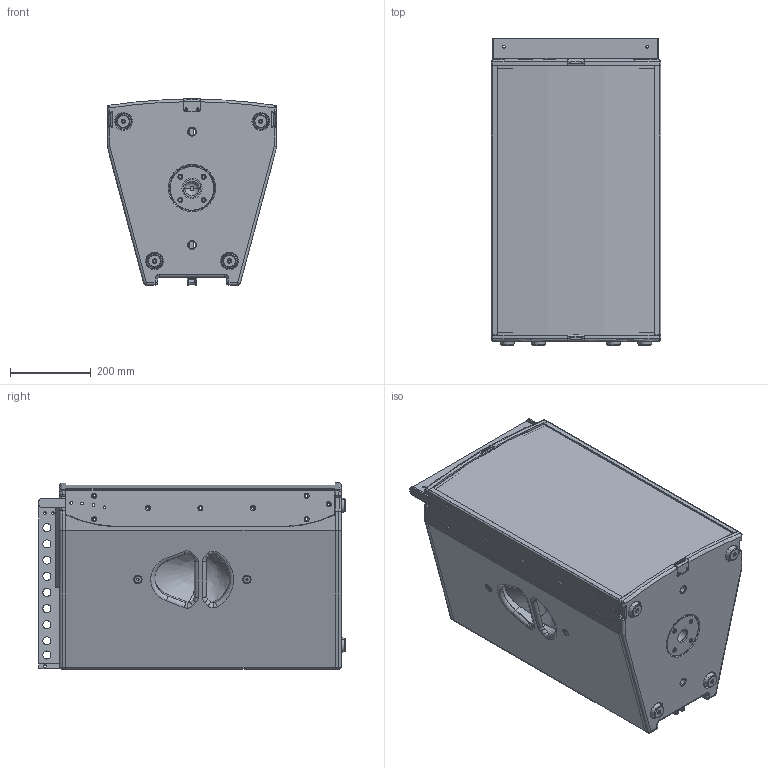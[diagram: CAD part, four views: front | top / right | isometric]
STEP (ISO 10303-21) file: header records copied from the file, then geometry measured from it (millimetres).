
FILE_DESCRIPTION (( 'STEP AP203' ), '1' );
FILE_NAME ('SEEBURG_K24_Cradle.STEP', '2014-04-04T07:55:58', ( 'Michael Anter' ), ( 'SEEBURG acoustic line GmbH' ), 'SwSTEP 2.0', 'SolidWorks 2009', '' );
FILE_SCHEMA (( 'CONFIG_CONTROL_DESIGN' ));
Length unit declared in the file: millimetre
Products named in the file (23): SEEBURG_K24_Cradle; Deckel(K24); Boden(K24); rechteSeitenwand(v); rechteSeitenwand(h); linkeSeitenwand(v); linkeSeitenwand(h); Rückwand(K24); RahmenK24(oben&unten); Gitterleiste(rechts); Gitterleiste(links); RückwandLeiste(K24); Griffaufdopplung_gedreht; Schiffchen; Befestigungsöse; Griffschale_oval; Craddle_K24_modifiziert; Schaum; Aufnahmebuchse_6mm; abs_fuss; ABS-Fuﾟ; 35mm_flanschhülse_110mm; AnschlussfeldEinfach
Assembly tree (33 placements, depth 3):
  SEEBURG_K24_Cradle
    rechteSeitenwand(h)
    Craddle_K24_modifiziert
    Griffschale_oval  x2
    linkeSeitenwand(v)
    Schaum
    Schiffchen  x2
    35mm_flanschhülse_110mm
    linkeSeitenwand(h)
    Aufnahmebuchse_6mm  x4
    AnschlussfeldEinfach
    Rückwand(K24)
    Griffaufdopplung_gedreht
    Befestigungsöse  x2
    abs_fuss  x4
      ABS-Fuﾟ
    RückwandLeiste(K24)  x2
    RahmenK24(oben&unten)  x2
    Deckel(K24)
    Boden(K24)
    Gitterleiste(links)
    rechteSeitenwand(v)
    Gitterleiste(rechts)
Bounding box: 420 x 758.5 x 461.84 mm (x, y, z)
Volume: 16408012.7 mm3; surface area: 3719674.8 mm2
Topology: 34 solids, 34 shells, 1453 faces, 3721 edges, 2344 vertices
Faces by surface type: cylinder 564, plane 449, cone 334, torus 70, bspline 28, sphere 8
Entity records: 42206 total; most frequent: CARTESIAN_POINT 11836, DIRECTION 6160, ORIENTED_EDGE 5526, EDGE_CURVE 2763, AXIS2_PLACEMENT_3D 2418, VERTEX_POINT 1761, EDGE_LOOP 1380, CIRCLE 1331
